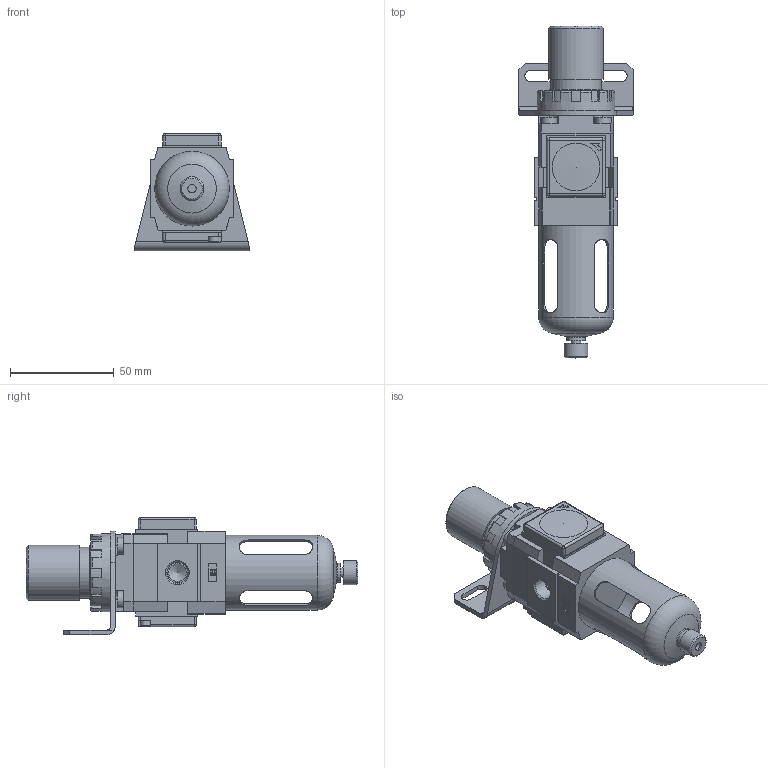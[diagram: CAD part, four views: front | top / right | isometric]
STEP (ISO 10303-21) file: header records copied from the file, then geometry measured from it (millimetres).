
FILE_DESCRIPTION((''),'2;1');
FILE_NAME('C:\3D Projects\3D Standard Parts\985397 Rev C Filter Regulator and Gauge.stp','2008-06-17T14:38:25',('patch'),(''),'Autodesk Inventor 2008','Autodesk Inventor 2008','');
FILE_SCHEMA(('AUTOMOTIVE_DESIGN { 1 0 10303 214 1 1 1 1 }'));
Length unit declared in the file: millimetre
Products named in the file (9): 985397 Rev C Filter Regulator and Gauge; AW20-N01BE-CZ.step_AW3020A Body_20; AW20-N01BE-CZ.step_AW3020A Loc Nut_20; AW20-N01BE-CZ.step_AW3020A Bowl Assy_20-C; AW20-N01BE-CZ.step_AW3020A Drain_20; AW20-N01BE-CZ.step_AW3020A Bowl_20-C; AW20-N01BE-CZ.step_AW3020A Gauge_20-E; AW20-N01BE-CZ.step_AW3020A Gauge_20; AW20-N01BE-CZ.step_AW3020A Bracket_20
Assembly tree (8 placements, depth 3):
  985397 Rev C Filter Regulator and Gauge
    AW20-N01BE-CZ.step_AW3020A Body_20
    AW20-N01BE-CZ.step_AW3020A Loc Nut_20
    AW20-N01BE-CZ.step_AW3020A Bowl Assy_20-C
      AW20-N01BE-CZ.step_AW3020A Drain_20
      AW20-N01BE-CZ.step_AW3020A Bowl_20-C
    AW20-N01BE-CZ.step_AW3020A Gauge_20-E
    AW20-N01BE-CZ.step_AW3020A Gauge_20
    AW20-N01BE-CZ.step_AW3020A Bracket_20
Bounding box: 55 x 160 x 56.8 mm (x, y, z)
Volume: 123176.4 mm3; surface area: 40821.6 mm2
Topology: 7 solids, 7 shells, 389 faces, 1013 edges, 654 vertices
Faces by surface type: plane 245, cylinder 87, cone 23, torus 15, bspline 12, sphere 7
Full cylindrical faces by diameter (mm): 4 x2, 4.6 x1, 5 x2, 8 x4, 8.5 x2, 9 x1, 10 x1, 11.5 x1, 24.5 x1, 26.5 x1, 28 x2, 34 x1, 36 x1, 37.5 x1
Entity records: 14342 total; most frequent: CARTESIAN_POINT 4743, ORIENTED_EDGE 1922, DIRECTION 1903, EDGE_CURVE 961, VERTEX_POINT 646, AXIS2_PLACEMENT_3D 635, VECTOR 633, LINE 633
